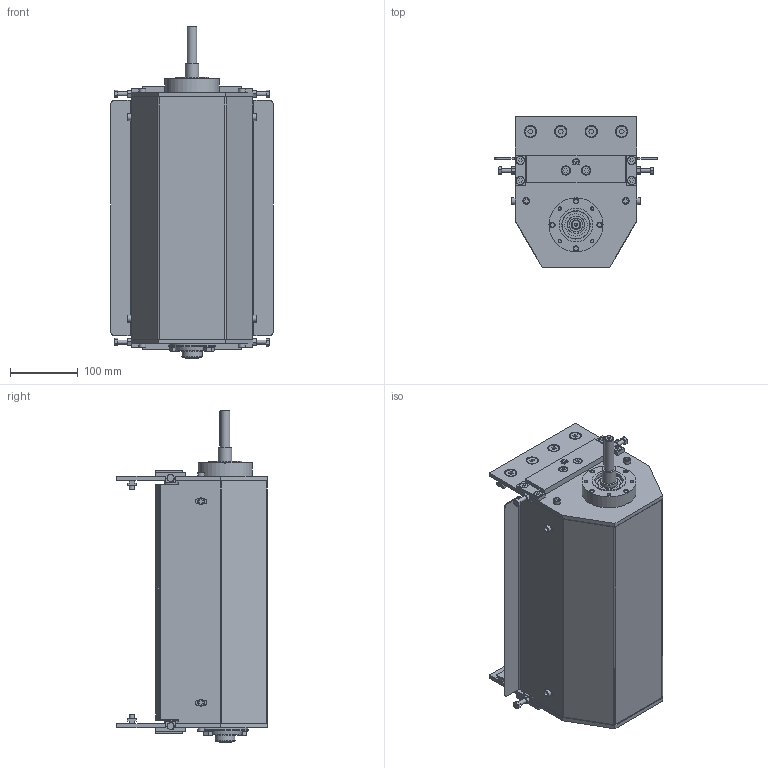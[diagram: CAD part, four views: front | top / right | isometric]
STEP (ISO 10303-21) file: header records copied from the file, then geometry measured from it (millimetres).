
FILE_DESCRIPTION (( 'STEP AP214' ), '1' );
FILE_NAME ('084.050.KCS.30.329.STEP', '2015-01-23T13:01:51', ( '' ), ( '' ), 'SwSTEP 2.0', 'SolidWorks 2012', '' );
FILE_SCHEMA (( 'AUTOMOTIVE_DESIGN' ));
Length unit declared in the file: millimetre
Products named in the file (36): VITI TSEI UNI 5933_M8x20 UNI 5933; RONDELLE UNI 6592_8.4x17 UNI 6592; VITI TE UNI 5739_M8x10 UNI 5739; VITI TSEI UNI 5933_M6x16 UNI 5933; VITI TSEI UNI 5933_M8x25 UNI 5933; VITI TSEI UNI 5933_M6x12 UNI 5933; VITI TE UNI 5739_M6x50 UNI 5739; DADI ESAGONALI NORMALI UNI 5588_M6 UNI 5588; VITI TCEI UNI 5931_M6x20 UNI 5931; 084.302.000 DADI ALUSIC 9x9_084.302.015; VITI TCEI UNI 5931_M6x10 UNI 5931; VITI TE UNI 5739_M5x20 UNI 5739; CHIAVETTE_A 5x5x50 UNI 6604-69; CUSCINETTI A SFERE_6004-2RS; ANELLI ELASTICI PER ESTERNI UNI 7435-75_30 UNI 7435; ANELLI ELASTICI PER ESTERNI UNI 7435-75_20 UNI 7435; CHIAVETTE_A 6x6x60 UNI 6604-69; VITI TE UNI 5739_M6x16 UNI 5739; RONDELLE FASCIA LARGA UNI 6593_6.4x24 UNI 6593; 084.307.006; 084.802.003-1; 084.802.020; 084.812.003; 084.802.012_Solo centrale; 084.802.004; 084.802.009; 084.802.021; 084.814.001-1; 084.810.003; 084.814.002-1; 084.100.003 (30x30)^084.050.KCS.30.329_Default<Lavorato>; 084.817.140_084.816.107<A macchina>; 084.817.141; 084.817.139; 084.817.138; 084.050.KCS.30.329
Assembly tree (89 placements, depth 2):
  084.050.KCS.30.329
    084.817.138  x2
    084.817.139  x2
    084.817.141
    084.817.140_084.816.107<A macchina>
    084.100.003 (30x30)^084.050.KCS.30.329_Default<Lavorato>  x2
    084.814.002-1
    084.810.003  x2
    084.814.001-1
    084.802.021
    084.802.009
    084.802.004  x4
    084.802.012_Solo centrale  x2
    084.812.003
    084.802.020
    084.802.003-1  x2
    084.307.006  x2
    RONDELLE FASCIA LARGA UNI 6593_6.4x24 UNI 6593
    VITI TE UNI 5739_M6x16 UNI 5739
    CHIAVETTE_A 6x6x60 UNI 6604-69
    ANELLI ELASTICI PER ESTERNI UNI 7435-75_20 UNI 7435  x4
    ANELLI ELASTICI PER ESTERNI UNI 7435-75_30 UNI 7435  x2
    CUSCINETTI A SFERE_6004-2RS  x4
    CHIAVETTE_A 5x5x50 UNI 6604-69
    VITI TE UNI 5739_M5x20 UNI 5739
    VITI TCEI UNI 5931_M6x10 UNI 5931  x4
    084.302.000 DADI ALUSIC 9x9_084.302.015  x4
    VITI TCEI UNI 5931_M6x20 UNI 5931  x4
    DADI ESAGONALI NORMALI UNI 5588_M6 UNI 5588  x4
    VITI TE UNI 5739_M6x50 UNI 5739  x4
    VITI TSEI UNI 5933_M6x12 UNI 5933  x8
    VITI TSEI UNI 5933_M8x25 UNI 5933  x4
    VITI TSEI UNI 5933_M6x16 UNI 5933  x4
    VITI TE UNI 5739_M8x10 UNI 5739  x2
    RONDELLE UNI 6592_8.4x17 UNI 6592  x2
    VITI TSEI UNI 5933_M8x20 UNI 5933  x8
Bounding box: 240 x 223 x 491 mm (x, y, z)
Volume: 2914932.1 mm3; surface area: 1578534.2 mm2
Topology: 91 solids, 91 shells, 1766 faces, 4153 edges, 2693 vertices
Faces by surface type: plane 1057, cylinder 422, cone 231, torus 47, sphere 9
Full cylindrical faces by diameter (mm): 4.2 x1, 5 x26, 5.15 x2, 6 x29, 6.2 x4, 6.4 x1, 6.6 x8, 6.8 x20, 7 x4, 8 x14, 8.4 x10, 9 x8, 10 x8, 12 x12, 14 x1, 16 x12, 17 x2, 18 x1, 19 x4, 20 x13, 24 x2, 25 x3, 28.6 x3, 30 x7, 32 x6, 33 x2, 41 x2, 42 x11, 44 x2, 45 x2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
Entity records: 25762 total; most frequent: CARTESIAN_POINT 4456, DIRECTION 4143, ORIENTED_EDGE 3576, EDGE_CURVE 1788, AXIS2_PLACEMENT_3D 1528, VERTEX_POINT 1261, EDGE_LOOP 1185, LINE 1087
